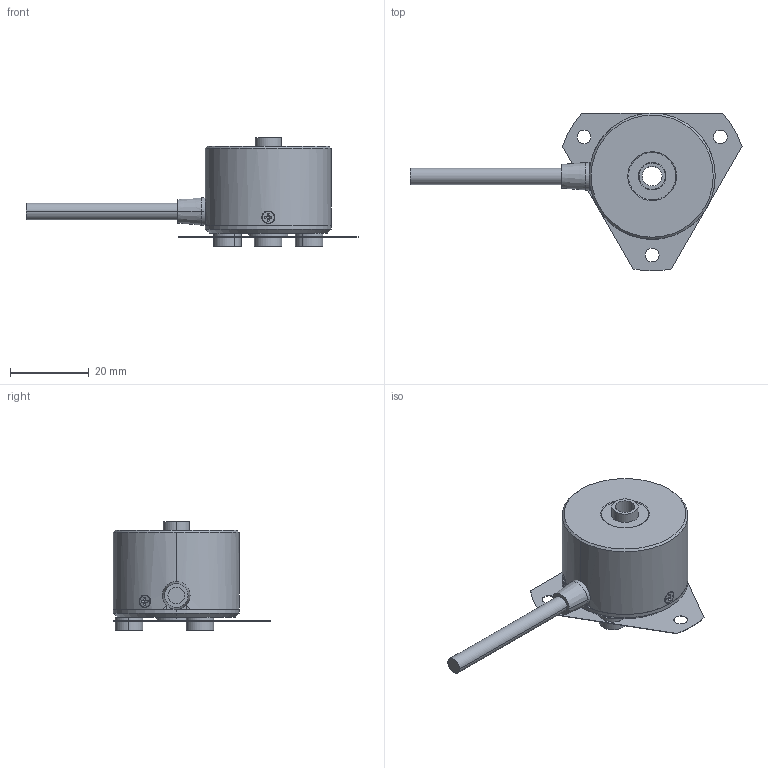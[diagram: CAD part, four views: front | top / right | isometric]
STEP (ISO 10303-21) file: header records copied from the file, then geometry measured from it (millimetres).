
FILE_DESCRIPTION(('STEP AP203'),'1');
FILE_NAME('//192.168.0.150/share/技術部/図面フォルダ（メンバー共用）/外形図データ/step/MEH-20P_平ﾌﾗﾝｼﾞ付.step','2016-08-31T10:50:53',(' '),(' '),'Spatial InterOp 3D',' ',' ');
FILE_SCHEMA(('CONFIG_CONTROL_DESIGN'));
Length unit declared in the file: millimetre
Products named in the file (20): 1; 2; 3; 4; 5; 6; 7; 8; 9; 10; 11; 12; 13; 14; 15; 16; 17; 18; 19; 20
Bounding box: 84.3 x 40 x 27.65 mm (x, y, z)
Volume: 8779.4 mm3; surface area: 13988.7 mm2
Topology: 20 solids, 20 shells, 371 faces, 890 edges, 576 vertices
Faces by surface type: cylinder 150, plane 132, cone 78, torus 8, bspline 3
Entity records: 12535 total; most frequent: CARTESIAN_POINT 2714, DIRECTION 2002, ORIENTED_EDGE 1768, EDGE_CURVE 884, AXIS2_PLACEMENT_3D 809, VERTEX_POINT 576, EDGE_LOOP 444, CIRCLE 417
